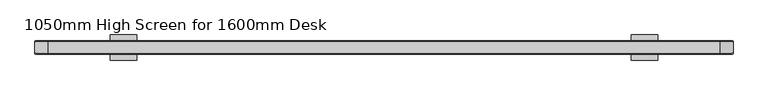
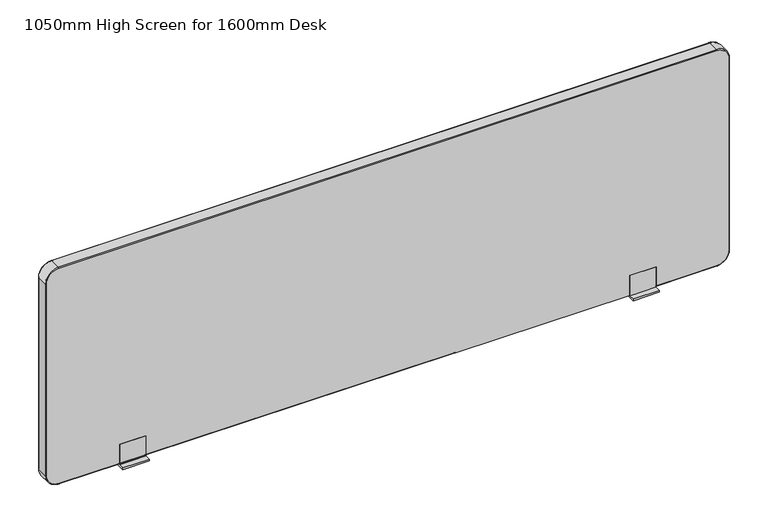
"""IFC4 building model written with IfcOpenShell, lengths in millimetres: furniture geometry, DBLTD_TheSenatorGroup_OffcDsks_Workbase_BackToBack_FabricScreen : 1050mm High Screen for 1600mm Desk."""

from ifc_helpers import new_model, si_unit, point, frame, frame_2d, origin, place, context, project, spatial, polyline, circle_curve, ellipse_curve, trimmed, segment, composite_curve, outline, extrude, faceted_brep, source, transform, mapped, element, save
from ifc_brep_helpers import plane_surface, cylinder_surface, revolved_surface, advanced_brep


def furniture_1050mm_high_screen_for_1600mm_desk_4bbc980c(model_context):
    return source(origin(), model_context, "Body", "SolidModel", [
        faceted_brep([(631.5500717, 840.0117886, 573.0000126), (631.5500717, 840.0117886, 523.9999783), (631.5500717, 853.228166, 523.9999783), (631.5500717, 853.228166, 520.0), (631.5500717, 796.9721819, 520.0), (631.5500717, 796.9721819, 523.9999783), (631.5500717, 810.1885593, 523.9999783), (631.5500717, 810.1885593, 573.0000126), (691.5400495, 840.0117886, 573.0000126), (691.5400495, 810.1885593, 573.0000126), (691.5400495, 810.1885593, 526.6778838), (691.5400495, 810.1885593, 525.4999888), (691.5400495, 810.1885593, 523.9999783), (691.5400495, 796.9721819, 523.9999783), (691.5400495, 796.9721819, 520.0), (691.5400495, 853.228166, 520.0), (691.5400495, 853.228166, 523.9999783), (691.5400495, 840.0117886, 523.9999783), (691.5400495, 840.0117886, 525.4999888), (691.5400495, 840.0117886, 527.4999888)], [[[0, 1, 2, 3, 4, 5, 6, 7]], [[8, 9, 10, 11, 12, 13, 14, 15, 16, 17, 18, 19]], [[0, 7, 9, 8]], [[7, 6, 12, 11, 10, 9]], [[6, 5, 13, 12]], [[5, 4, 14, 13]], [[4, 3, 15, 14]], [[3, 2, 16, 15]], [[2, 1, 17, 16]], [[1, 0, 8, 19, 18, 17]]]),
        extrude(outline(composite_curve([segment(polyline([(573.0000126, 840.0117886), (573.0000126, 810.1885593), (526.6778838, 810.1885593)]), True, "CONTINUOUS"), segment(trimmed(circle_curve(frame_2d((527.4999888, 812.0117826)), 2.0), [point((526.6778838, 810.1885593))], [point((525.4999888, 812.0117826))], False, "CARTESIAN"), True, "CONTINUOUS"), segment(polyline([(525.4999888, 812.0117826), (525.4999888, 810.1885593), (523.9999783, 810.1885593), (523.9999783, 796.9721819), (520.0, 796.9721819), (520.0, 853.228166), (523.9999783, 853.228166), (523.9999783, 840.0117886), (525.4999888, 840.0117886), (525.4999888, 838.0117886)]), True, "CONTINUOUS"), segment(trimmed(circle_curve(frame_2d((527.4999888, 838.0117886)), 2.0), [point((525.4999888, 838.0117886))], [point((527.4999888, 840.0117886))], False, "CARTESIAN"), True, "CONTINUOUS"), segment(polyline([(527.4999888, 840.0117886), (573.0000126, 840.0117886)]), True, "CONTINUOUS")], self_intersect=False)), frame((-476.5500717, 0.0, 0.0), z_axis=(-1.0, 0.0, 0.0), x_axis=(0.0, 0.0, 1.0)), (0.0, 0.0, 1.0), 59.9899778),
        advanced_brep(
        [(-536.5400495, 810.0117826, 573.0000126), (-476.5500717, 810.0117826, 573.0000126), (-476.5500717, 810.0117826, 527.4999888), (231.5500717, 810.0117826, 527.4999888), (231.5500717, 810.0117826, 525.4999888), (631.5500717, 810.0117826, 525.4999888), (631.5500717, 810.0117826, 573.0000126), (691.5400495, 810.0117826, 573.0000126), (691.5400495, 810.0117826, 527.4999888), (830.5, 810.0117826, 527.4999888), (858.5, 810.0117826, 555.4999888), (858.5, 810.0117826, 1020.0), (830.5, 810.0117826, 1048.0), (-675.5, 810.0117826, 1048.0), (-703.5, 810.0117826, 1020.0), (-703.5, 810.0117826, 555.4999888), (-675.5, 810.0117826, 527.4999888), (-536.5400495, 810.0117826, 527.4999888), (691.5400495, 840.0117886, 573.0000126), (631.5500717, 840.0117886, 573.0000126), (631.5500717, 840.0117886, 525.4999888), (231.5500717, 840.0117886, 525.4999888), (231.5500717, 840.0117886, 527.4999888), (-476.5500717, 840.0117886, 527.4999888), (-476.5500717, 840.0117886, 573.0000126), (-536.5400495, 840.0117886, 573.0000126), (-536.5400495, 840.0117886, 527.4999888), (-675.5, 840.0117886, 527.4999888), (-703.5, 840.0117886, 555.4999888), (-703.5, 840.0117886, 1020.0), (-675.5, 840.0117886, 1048.0), (830.5, 840.0117886, 1048.0), (858.5, 840.0117886, 1020.0), (858.5, 840.0117886, 555.4999888), (830.5, 840.0117886, 527.4999888), (691.5400495, 840.0117886, 527.4999888), (830.5, 812.011776, 1050.0), (830.5, 838.0117886, 1050.0), (-675.5, 838.0117886, 1050.0), (-675.5, 812.0117826, 1050.0), (-705.5, 838.0117886, 1020.0), (-705.5, 812.0117773, 1020.0), (-705.5, 838.0117886, 555.4999888), (-705.5, 812.0117826, 555.4999888), (-675.5, 838.0117886, 525.4999888), (-675.5, 812.0117828, 525.4999888), (691.5400495, 812.0117826, 525.4999888), (691.5400495, 838.0117886, 525.4999888), (830.5, 838.0117886, 525.4999888), (830.5, 812.0117826, 525.4999888), (860.5, 838.0117886, 555.4999888), (860.5, 812.0117811, 555.4999888), (860.5, 838.0117886, 1020.0), (860.5, 812.0117826, 1020.0), (-536.5400495, 838.0117886, 525.4999888), (-536.5400495, 812.0117826, 525.4999888), (-476.5500717, 838.0117886, 525.4999888), (-476.5500717, 812.0117826, 525.4999888), (231.5500717, 812.0117826, 525.4999888), (231.5500717, 838.0117886, 525.4999888)],
        [
            (0, 1),
            (1, 2),
            (2, 3),
            (3, 4),
            (4, 5),
            (5, 6),
            (6, 7),
            (7, 8),
            (8, 9),
            (9, 10, circle_curve(frame((830.5, 810.0117826, 555.4999888), z_axis=(0.0, -1.0, 0.0), x_axis=(0.0, 0.0, -1.0)), 28.0)),
            (10, 11),
            (11, 12, circle_curve(frame((830.5, 810.0117826, 1020.0), z_axis=(0.0, -1.0, 0.0), x_axis=(1.0, 0.0, 0.0)), 28.0)),
            (12, 13),
            (13, 14, circle_curve(frame((-675.5, 810.0117826, 1020.0), z_axis=(0.0, -1.0, 0.0), x_axis=(0.0, 0.0, 1.0)), 28.0)),
            (14, 15),
            (15, 16, circle_curve(frame((-675.5, 810.0117826, 555.4999888), z_axis=(0.0, -1.0, 0.0), x_axis=(-1.0, 0.0, 0.0)), 28.0)),
            (16, 17),
            (17, 0),
            (18, 19),
            (19, 20),
            (20, 21),
            (21, 22),
            (22, 23),
            (23, 24),
            (24, 25),
            (25, 26),
            (26, 27),
            (27, 28, circle_curve(frame((-675.5, 840.0117886, 555.4999888), z_axis=(0.0, 1.0, 0.0), x_axis=(-1.0, 0.0, 0.0)), 28.0)),
            (28, 29),
            (29, 30, circle_curve(frame((-675.5, 840.0117886, 1020.0), z_axis=(0.0, 1.0, 0.0), x_axis=(0.0, 0.0, 1.0)), 28.0)),
            (30, 31),
            (31, 32, circle_curve(frame((830.5, 840.0117886, 1020.0), z_axis=(0.0, 1.0, 0.0), x_axis=(1.0, 0.0, 0.0)), 28.0)),
            (32, 33),
            (33, 34, circle_curve(frame((830.5, 840.0117886, 555.4999888), z_axis=(0.0, 1.0, 0.0), x_axis=(0.0, 0.0, -1.0)), 28.0)),
            (34, 35),
            (35, 18),
            (36, 37),
            (37, 38),
            (38, 39),
            (39, 36),
            (38, 40, circle_curve(frame((-675.5, 838.0117886, 1020.0), z_axis=(0.0, -1.0, 0.0), x_axis=(1.0, 0.0, 0.0)), 30.0)),
            (40, 41),
            (41, 39, circle_curve(frame((-675.5, 812.0117826, 1020.0), z_axis=(0.0, 1.0, 0.0), x_axis=(1.0, 0.0, 0.0)), 30.0)),
            (40, 42),
            (42, 43),
            (43, 41),
            (42, 44, circle_curve(frame((-675.5, 838.0117886, 555.4999888), z_axis=(0.0, -1.0, 0.0), x_axis=(1.0, 0.0, 0.0)), 30.0)),
            (44, 45),
            (45, 43, circle_curve(frame((-675.5, 812.0117826, 555.4999888), z_axis=(0.0, 1.0, 0.0), x_axis=(1.0, 0.0, 0.0)), 30.0)),
            (46, 47),
            (47, 48),
            (48, 49),
            (49, 46),
            (48, 50, circle_curve(frame((830.5, 838.0117886, 555.4999888), z_axis=(0.0, -1.0, 0.0), x_axis=(1.0, 0.0, 0.0)), 30.0)),
            (50, 51),
            (51, 49, circle_curve(frame((830.5, 812.0117826, 555.4999888), z_axis=(0.0, 1.0, 0.0), x_axis=(1.0, 0.0, 0.0)), 30.0)),
            (50, 52),
            (52, 53),
            (53, 51),
            (36, 53, circle_curve(frame((830.5, 812.0117826, 1020.0), z_axis=(0.0, 1.0, 0.0), x_axis=(1.0, 0.0, 0.0)), 30.0)),
            (52, 37, circle_curve(frame((830.5, 838.0117886, 1020.0), z_axis=(0.0, -1.0, 0.0), x_axis=(1.0, 0.0, 0.0)), 30.0)),
            (44, 54),
            (54, 55),
            (55, 45),
            (25, 0),
            (17, 55, circle_curve(frame((-536.5400495, 812.0117826, 527.4999888), z_axis=(1.0, 0.0, 0.0), x_axis=(0.0, -1.0, 0.0)), 2.0)),
            (54, 26, circle_curve(frame((-536.5400495, 838.0117886, 527.4999888), z_axis=(1.0, 0.0, 0.0), x_axis=(0.0, -1.0, 0.0)), 2.0)),
            (24, 1),
            (23, 56, circle_curve(frame((-476.5500717, 838.0117886, 527.4999888), z_axis=(-1.0, 0.0, 0.0), x_axis=(0.0, -1.0, 0.0)), 2.0)),
            (56, 57),
            (57, 2, circle_curve(frame((-476.5500717, 812.0117826, 527.4999888), z_axis=(-1.0, 0.0, 0.0), x_axis=(0.0, -1.0, 0.0)), 2.0)),
            (20, 5),
            (4, 58),
            (58, 57),
            (56, 59),
            (59, 21),
            (19, 6),
            (18, 7),
            (35, 47, circle_curve(frame((691.5400495, 838.0117886, 527.4999888), z_axis=(-1.0, 0.0, 0.0), x_axis=(0.0, -1.0, 0.0)), 2.0)),
            (46, 8, circle_curve(frame((691.5400495, 812.0117826, 527.4999888), z_axis=(-1.0, 0.0, 0.0), x_axis=(0.0, -1.0, 0.0)), 2.0)),
            (49, 9, circle_curve(frame((830.5, 812.0117826, 527.4999888), z_axis=(-1.0, 0.0, 0.0), x_axis=(0.0, -1.0, 0.0)), 2.0)),
            (34, 48, circle_curve(frame((830.5, 838.0117886, 527.4999888), z_axis=(-1.0, 0.0, 0.0), x_axis=(0.0, -1.0, 0.0)), 2.0)),
            (51, 10, circle_curve(frame((858.5, 812.0117826, 555.4999888), z_axis=(0.0, 0.0, -1.0), x_axis=(0.0, -1.0, 0.0)), 2.0)),
            (33, 50, circle_curve(frame((858.5, 838.0117886, 555.4999888), z_axis=(0.0, 0.0, -1.0), x_axis=(0.0, -1.0, 0.0)), 2.0)),
            (53, 11, circle_curve(frame((858.5, 812.0117826, 1020.0), z_axis=(0.0, 0.0, -1.0), x_axis=(0.0, -1.0, 0.0)), 2.0)),
            (32, 52, circle_curve(frame((858.5, 838.0117886, 1020.0), z_axis=(0.0, 0.0, -1.0), x_axis=(0.0, -1.0, 0.0)), 2.0)),
            (36, 12, circle_curve(frame((830.5, 812.0117826, 1048.0), z_axis=(1.0, 0.0, 0.0), x_axis=(0.0, -1.0, 0.0)), 2.0)),
            (31, 37, circle_curve(frame((830.5, 838.0117886, 1048.0), z_axis=(1.0, 0.0, 0.0), x_axis=(0.0, -1.0, 0.0)), 2.0)),
            (39, 13, circle_curve(frame((-675.5, 812.0117826, 1048.0), z_axis=(1.0, 0.0, 0.0), x_axis=(0.0, -1.0, 0.0)), 2.0)),
            (30, 38, circle_curve(frame((-675.5, 838.0117886, 1048.0), z_axis=(1.0, 0.0, 0.0), x_axis=(0.0, -1.0, 0.0)), 2.0)),
            (41, 14, circle_curve(frame((-703.5, 812.0117826, 1020.0), z_axis=(0.0, 0.0, 1.0), x_axis=(0.0, -1.0, 0.0)), 2.0)),
            (29, 40, circle_curve(frame((-703.5, 838.0117886, 1020.0), z_axis=(0.0, 0.0, 1.0), x_axis=(0.0, -1.0, 0.0)), 2.0)),
            (43, 15, circle_curve(frame((-703.5, 812.0117826, 555.4999888), z_axis=(0.0, 0.0, 1.0), x_axis=(0.0, -1.0, 0.0)), 2.0)),
            (28, 42, circle_curve(frame((-703.5, 838.0117886, 555.4999888), z_axis=(0.0, 0.0, 1.0), x_axis=(0.0, -1.0, 0.0)), 2.0)),
            (45, 16, circle_curve(frame((-675.5, 812.0117826, 527.4999888), z_axis=(-1.0, 0.0, 0.0), x_axis=(0.0, -1.0, 0.0)), 2.0)),
            (27, 44, circle_curve(frame((-675.5, 838.0117886, 527.4999888), z_axis=(-1.0, 0.0, 0.0), x_axis=(0.0, -1.0, 0.0)), 2.0)),
            (3, 58, circle_curve(frame((231.5500717, 812.0117826, 527.4999888), z_axis=(1.0, 0.0, 0.0), x_axis=(0.0, -1.0, 0.0)), 2.0)),
            (59, 22, circle_curve(frame((231.5500717, 838.0117886, 527.4999888), z_axis=(1.0, 0.0, 0.0), x_axis=(0.0, -1.0, 0.0)), 2.0)),
        ],
        [
            plane_surface(frame((-675.5, 810.0117826, 1050.0), z_axis=(0.0, -1.0, 0.0), x_axis=(-1.0, 0.0, 0.0))),
            plane_surface(frame((-675.5, 840.0117886, 1050.0), z_axis=(0.0, 1.0, 0.0), x_axis=(1.0, 0.0, 0.0))),
            plane_surface(frame((830.5, 810.0117826, 1050.0), z_axis=(0.0, 0.0, 1.0), x_axis=(0.0, 1.0, 0.0))),
            cylinder_surface(frame((-675.5, 840.0117886, 1020.0), z_axis=(0.0, -1.0, 0.0), x_axis=(1.0, 0.0, 0.0)), 30.0),
            plane_surface(frame((-705.5, 810.0117826, 1020.0), z_axis=(-1.0, 0.0, 0.0), x_axis=(0.0, 1.0, 0.0))),
            cylinder_surface(frame((-675.5, 840.0117886, 555.4999888), z_axis=(0.0, -1.0, 0.0), x_axis=(1.0, 0.0, 0.0)), 30.0),
            plane_surface(frame((691.5400495, 810.0117826, 525.4999888), z_axis=(0.0, 0.0, -1.0), x_axis=(0.0, 1.0, 0.0))),
            cylinder_surface(frame((830.5, 840.0117886, 555.4999888), z_axis=(0.0, -1.0, 0.0), x_axis=(1.0, 0.0, 0.0)), 30.0),
            plane_surface(frame((860.5, 810.0117826, 555.4999888), z_axis=(1.0, 0.0, 0.0), x_axis=(0.0, 1.0, 0.0))),
            cylinder_surface(frame((830.5, 840.0117886, 1020.0), z_axis=(0.0, -1.0, 0.0), x_axis=(1.0, 0.0, 0.0)), 30.0),
            plane_surface(frame((-675.5, 810.0117826, 525.4999888), z_axis=(0.0, 0.0, -1.0), x_axis=(0.0, 1.0, 0.0))),
            plane_surface(frame((-536.5400495, 810.0117826, 525.4999888), z_axis=(1.0, 0.0, 0.0), x_axis=(0.0, 1.0, 0.0))),
            plane_surface(frame((-536.5400495, 810.0117826, 573.0000126), z_axis=(0.0, 0.0, -1.0), x_axis=(0.0, 1.0, 0.0))),
            plane_surface(frame((-476.5500717, 810.0117826, 573.0000126), z_axis=(-1.0, 0.0, 0.0), x_axis=(0.0, 1.0, 0.0))),
            plane_surface(frame((-476.5500717, 810.0117826, 525.4999888), z_axis=(0.0, 0.0, -1.0), x_axis=(0.0, 1.0, 0.0))),
            plane_surface(frame((631.5500717, 810.0117826, 525.4999888), z_axis=(1.0, 0.0, 0.0), x_axis=(0.0, 1.0, 0.0))),
            plane_surface(frame((631.5500717, 810.0117826, 573.0000126), z_axis=(0.0, 0.0, -1.0), x_axis=(0.0, 1.0, 0.0))),
            plane_surface(frame((691.5400495, 810.0117826, 573.0000126), z_axis=(-1.0, 0.0, 0.0), x_axis=(0.0, 1.0, 0.0))),
            cylinder_surface(frame((691.5400495, 812.0117826, 527.4999888), z_axis=(1.0, 0.0, 0.0), x_axis=(0.0, -1.0, 0.0)), 2.0),
            cylinder_surface(frame((691.5400495, 838.0117886, 527.4999888), z_axis=(1.0, 0.0, 0.0), x_axis=(0.0, -1.0, 0.0)), 2.0),
            revolved_surface(trimmed(ellipse_curve(frame((830.5, 812.0117826, 527.4999888), z_axis=(-1.0, 0.0, 0.0), x_axis=(0.0, -1.0, 0.0)), 2.0, 2.0), [point((830.5, 812.0117826, 525.4999888))], [point((830.5, 810.0117826, 527.4999888))], True, "CARTESIAN"), (830.5, 810.0117826, 555.4999888), (0.0, -1.0, 0.0)),
            revolved_surface(trimmed(ellipse_curve(frame((830.5, 838.0117886, 527.4999888), z_axis=(-1.0, 0.0, 0.0), x_axis=(0.0, -1.0, 0.0)), 2.0, 2.0), [point((830.5, 840.0117886, 527.4999888))], [point((830.5, 838.0117886, 525.4999888))], True, "CARTESIAN"), (830.5, 810.0117826, 555.4999888), (0.0, -1.0, 0.0)),
            cylinder_surface(frame((858.5, 812.0117826, 555.4999888), z_axis=(0.0, 0.0, 1.0), x_axis=(0.0, -1.0, 0.0)), 2.0),
            cylinder_surface(frame((858.5, 838.0117886, 555.4999888), z_axis=(0.0, 0.0, 1.0), x_axis=(0.0, -1.0, 0.0)), 2.0),
            revolved_surface(trimmed(ellipse_curve(frame((858.5, 812.0117826, 1020.0), z_axis=(0.0, 0.0, -1.0), x_axis=(0.0, -1.0, 0.0)), 2.0, 2.0), [point((860.5, 812.0117826, 1020.0))], [point((858.5, 810.0117826, 1020.0))], True, "CARTESIAN"), (830.5, 810.0117826, 1020.0), (0.0, -1.0, 0.0)),
            revolved_surface(trimmed(ellipse_curve(frame((858.5, 838.0117886, 1020.0), z_axis=(0.0, 0.0, -1.0), x_axis=(0.0, -1.0, 0.0)), 2.0, 2.0), [point((858.5, 840.0117886, 1020.0))], [point((860.5, 838.0117886, 1020.0))], True, "CARTESIAN"), (830.5, 810.0117826, 1020.0), (0.0, -1.0, 0.0)),
            cylinder_surface(frame((830.5, 812.0117826, 1048.0), z_axis=(-1.0, 0.0, 0.0), x_axis=(0.0, -1.0, 0.0)), 2.0),
            cylinder_surface(frame((830.5, 838.0117886, 1048.0), z_axis=(-1.0, 0.0, 0.0), x_axis=(0.0, -1.0, 0.0)), 2.0),
            revolved_surface(trimmed(ellipse_curve(frame((-675.5, 812.0117826, 1048.0), z_axis=(1.0, 0.0, 0.0), x_axis=(0.0, -1.0, 0.0)), 2.0, 2.0), [point((-675.5, 812.0117826, 1050.0))], [point((-675.5, 810.0117826, 1048.0))], True, "CARTESIAN"), (-675.5, 810.0117826, 1020.0), (0.0, -1.0, 0.0)),
            revolved_surface(trimmed(ellipse_curve(frame((-675.5, 838.0117886, 1048.0), z_axis=(1.0, 0.0, 0.0), x_axis=(0.0, -1.0, 0.0)), 2.0, 2.0), [point((-675.5, 840.0117886, 1048.0))], [point((-675.5, 838.0117886, 1050.0))], True, "CARTESIAN"), (-675.5, 810.0117826, 1020.0), (0.0, -1.0, 0.0)),
            cylinder_surface(frame((-703.5, 812.0117826, 1020.0), z_axis=(0.0, 0.0, -1.0), x_axis=(0.0, -1.0, 0.0)), 2.0),
            cylinder_surface(frame((-703.5, 838.0117886, 1020.0), z_axis=(0.0, 0.0, -1.0), x_axis=(0.0, -1.0, 0.0)), 2.0),
            revolved_surface(trimmed(ellipse_curve(frame((-703.5, 812.0117826, 555.4999888), z_axis=(0.0, 0.0, 1.0), x_axis=(0.0, -1.0, 0.0)), 2.0, 2.0), [point((-705.5, 812.0117826, 555.4999888))], [point((-703.5, 810.0117826, 555.4999888))], True, "CARTESIAN"), (-675.5, 810.0117826, 555.4999888), (0.0, -1.0, 0.0)),
            revolved_surface(trimmed(ellipse_curve(frame((-703.5, 838.0117886, 555.4999888), z_axis=(0.0, 0.0, 1.0), x_axis=(0.0, -1.0, 0.0)), 2.0, 2.0), [point((-703.5, 840.0117886, 555.4999888))], [point((-705.5, 838.0117886, 555.4999888))], True, "CARTESIAN"), (-675.5, 810.0117826, 555.4999888), (0.0, -1.0, 0.0)),
            plane_surface(frame((231.5500717, 810.0117826, 525.4999888), z_axis=(-1.0, 0.0, 0.0), x_axis=(0.0, 0.0, -1.0))),
            cylinder_surface(frame((-675.5, 812.0117826, 527.4999888), z_axis=(1.0, 0.0, 0.0), x_axis=(0.0, -1.0, 0.0)), 2.0),
            cylinder_surface(frame((-675.5, 838.0117886, 527.4999888), z_axis=(1.0, 0.0, 0.0), x_axis=(0.0, -1.0, 0.0)), 2.0),
        ],
        [
            (0, [[1, 2, 3, 4, 5, 6, 7, 8, 9, 10, 11, 12, 13, 14, 15, 16, 17, 18]]),
            (1, [[19, 20, 21, 22, 23, 24, 25, 26, 27, 28, 29, 30, 31, 32, 33, 34, 35, 36]]),
            (2, [[37, 38, 39, 40]]),
            (3, [[-39, 41, 42, 43]]),
            (4, [[-42, 44, 45, 46]]),
            (5, [[-45, 47, 48, 49]]),
            (6, [[50, 51, 52, 53]]),
            (7, [[-52, 54, 55, 56]]),
            (8, [[-55, 57, 58, 59]]),
            (9, [[-37, 60, -58, 61]]),
            (10, [[-48, 62, 63, 64]]),
            (11, [[65, -18, 66, -63, 67, -26]]),
            (12, [[-1, -65, -25, 68]]),
            (13, [[-68, -24, 69, 70, 71, -2]]),
            (14, [[72, -5, 73, 74, -70, 75, 76, -21]]),
            (15, [[-6, -72, -20, 77]]),
            (16, [[-7, -77, -19, 78]]),
            (17, [[-78, -36, 79, -50, 80, -8]]),
            (18, [[81, -9, -80, -53]]),
            (19, [[82, -51, -79, -35]]),
            (20, [[-81, -56, 83, -10]]),
            (21, [[-82, -34, 84, -54]]),
            (22, [[-83, -59, 85, -11]]),
            (23, [[-84, -33, 86, -57]]),
            (24, [[-85, -60, 87, -12]]),
            (25, [[-86, -32, 88, -61]]),
            (26, [[-87, -40, 89, -13]]),
            (27, [[-88, -31, 90, -38]]),
            (28, [[-89, -43, 91, -14]]),
            (29, [[-90, -30, 92, -41]]),
            (30, [[-91, -46, 93, -15]]),
            (31, [[-92, -29, 94, -44]]),
            (32, [[-93, -49, 95, -16]]),
            (33, [[-94, -28, 96, -47]]),
            (34, [[97, -73, -4]]),
            (34, [[98, -22, -76]]),
            (35, [[-95, -64, -66, -17]]),
            (35, [[-97, -3, -71, -74]]),
            (36, [[-96, -27, -67, -62]]),
            (36, [[-98, -75, -69, -23]]),
        ],
    ),
    ])


if __name__ == "__main__":
    model = new_model("IFC4")
    model_context = context("Model", 3, world=origin())
    ifc_project = project(units=[si_unit("LENGTHUNIT", "METRE", prefix="MILLI")], contexts=[model_context])
    site = spatial("IfcSite", under=ifc_project)
    building = spatial("IfcBuilding", under=site)
    placement = place(None, origin())
    furniture_1050mm_high_screen_for_1600mm_desk_shape = furniture_1050mm_high_screen_for_1600mm_desk_4bbc980c(model_context)
    element("IfcFurniture", 1, ObjectType="DBLTD_TheSenatorGroup_OffcDsks_Workbase_BackToBack_FabricScreen : 1050mm High Screen for 1600mm Desk", at=placement, inside=building, context=model_context, shape_type="MappedRepresentation", body=[
        mapped(furniture_1050mm_high_screen_for_1600mm_desk_shape, transform((0.0, 0.0, 0.0), x_axis=(1.0, 0.0, 0.0), y_axis=(0.0, 1.0, 0.0), z_axis=(0.0, 0.0, 1.0))),
    ])
    save(model, "model.ifc")
